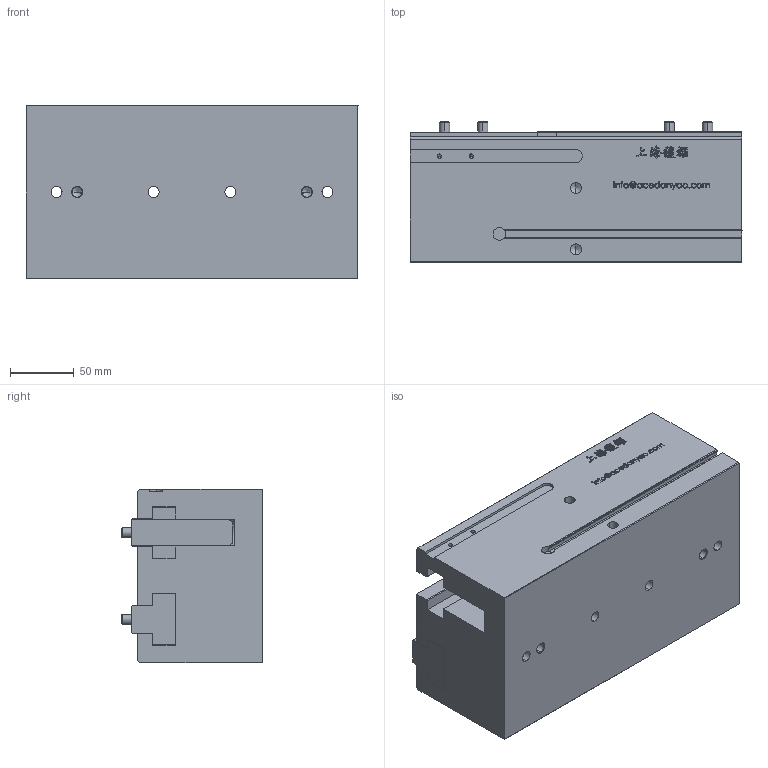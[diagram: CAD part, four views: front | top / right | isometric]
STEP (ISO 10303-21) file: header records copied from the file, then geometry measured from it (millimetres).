
FILE_DESCRIPTION (( 'STEP AP203' ), '1' );
FILE_NAME ('GPL60-100-原始檔-組合-W106.04.18.STEP', '2017-04-18T01:32:05', ( 'DanyaoCAD' ), ( '' ), 'SwSTEP 2.0', 'SolidWorks 2016', '' );
FILE_SCHEMA (( 'CONFIG_CONTROL_DESIGN' ));
Length unit declared in the file: millimetre
Products named in the file (3): Griffa; Corpo; GPL60-100-原始檔-組合-W106.04.18
Assembly tree (3 placements, depth 2):
  GPL60-100-原始檔-組合-W106.04.18
    Griffa  x2
    Corpo
Bounding box: 260 x 110 x 136 mm (x, y, z)
Volume: 3030161.8 mm3; surface area: 290456 mm2
Topology: 3 solids, 3 shells, 995 faces, 2775 edges, 1830 vertices
Faces by surface type: bspline 640, plane 263, cylinder 56, cone 36
Entity records: 46726 total; most frequent: CARTESIAN_POINT 26466, ORIENTED_EDGE 5262, EDGE_CURVE 2631, DIRECTION 2081, VERTEX_POINT 1751, B_SPLINE_CURVE_WITH_KNOTS 1280, VECTOR 1237, LINE 1237
